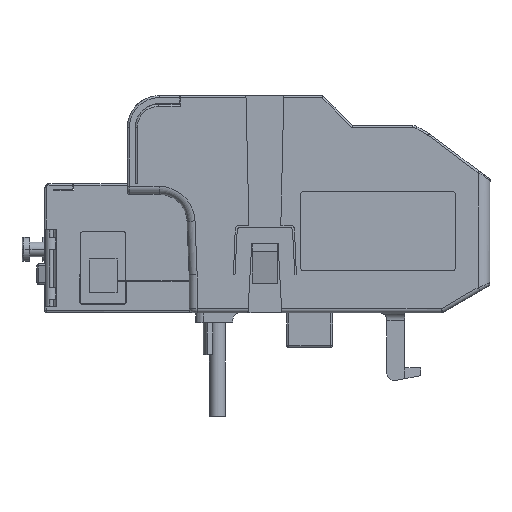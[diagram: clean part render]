
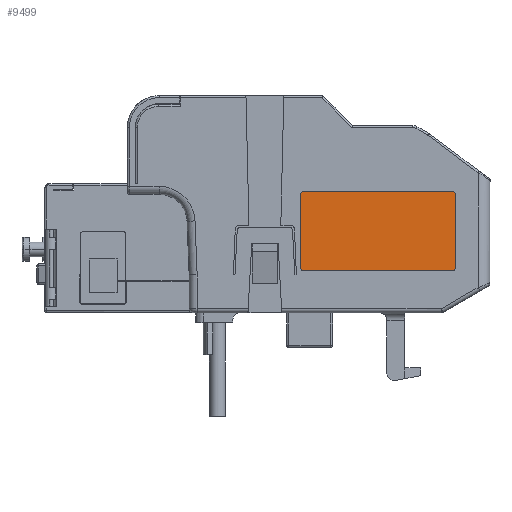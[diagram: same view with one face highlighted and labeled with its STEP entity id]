
A CAD part, left-side view. The second image highlights one B-rep face of the part: STEP entity #9499.
In plain terms, the highlighted planar face has unit normal (-1, 0, 0) as drawn and (1, 0, 0) by its records, which use the part's own axes.
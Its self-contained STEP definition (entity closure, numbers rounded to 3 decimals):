
#1559 = ORIENTED_EDGE ( 'NONE', *, *, #173726, .T. ) ;
#2385 = VERTEX_POINT ( 'NONE', #103131 ) ;
#5313 = CARTESIAN_POINT ( 'NONE',  ( 35.1, -26.65, -11. ) ) ;
#9282 = DIRECTION ( 'NONE',  ( 0., -1., 0. ) ) ;
#9499 = ADVANCED_FACE ( 'NONE', ( #155114 ), #33477, .T. ) ;
#12412 = CIRCLE ( 'NONE', #105243, 1. ) ;
#17247 = AXIS2_PLACEMENT_3D ( 'NONE', #162146, #163893, #137461 ) ;
#18532 = DIRECTION ( 'NONE',  ( 0., 1., 0. ) ) ;
#19387 = DIRECTION ( 'NONE',  ( 1., 0., 0. ) ) ;
#19922 = ORIENTED_EDGE ( 'NONE', *, *, #166448, .T. ) ;
#20235 = VERTEX_POINT ( 'NONE', #71863 ) ;
#22879 = CARTESIAN_POINT ( 'NONE',  ( 35.1, -7.15, -20. ) ) ;
#24565 = VECTOR ( 'NONE', #143321, 1000. ) ;
#26340 = DIRECTION ( 'NONE',  ( 1., 0., 0. ) ) ;
#33267 = CARTESIAN_POINT ( 'NONE',  ( 35.1, -46.15, -2. ) ) ;
#33477 = PLANE ( 'NONE',  #84716 ) ;
#33488 = DIRECTION ( 'NONE',  ( 1., 0., 0. ) ) ;
#34133 = LINE ( 'NONE', #33267, #36159 ) ;
#34921 = DIRECTION ( 'NONE',  ( 0., 1., 0. ) ) ;
#36159 = VECTOR ( 'NONE', #58865, 1000. ) ;
#37216 = CIRCLE ( 'NONE', #135734, 1. ) ;
#38477 = ORIENTED_EDGE ( 'NONE', *, *, #56082, .T. ) ;
#44982 = CARTESIAN_POINT ( 'NONE',  ( 35.1, -8.15, -20. ) ) ;
#49318 = LINE ( 'NONE', #22879, #59843 ) ;
#55554 = VECTOR ( 'NONE', #9282, 1000. ) ;
#56082 = EDGE_CURVE ( 'NONE', #163882, #2385, #12412, .T. ) ;
#56965 = CIRCLE ( 'NONE', #149922, 1. ) ;
#57927 = CARTESIAN_POINT ( 'NONE',  ( 35.1, -8.15, -2. ) ) ;
#58865 = DIRECTION ( 'NONE',  ( 0., 0., -1. ) ) ;
#59843 = VECTOR ( 'NONE', #103076, 1000. ) ;
#65570 = ORIENTED_EDGE ( 'NONE', *, *, #116382, .T. ) ;
#65620 = VERTEX_POINT ( 'NONE', #123465 ) ;
#68125 = VERTEX_POINT ( 'NONE', #153647 ) ;
#71863 = CARTESIAN_POINT ( 'NONE',  ( 35.1, -45.15, -21. ) ) ;
#72519 = CARTESIAN_POINT ( 'NONE',  ( 35.1, -7.15, -20. ) ) ;
#76416 = CIRCLE ( 'NONE', #17247, 1. ) ;
#84716 = AXIS2_PLACEMENT_3D ( 'NONE', #5313, #19387, #18532 ) ;
#87276 = DIRECTION ( 'NONE',  ( 0., 0., -1. ) ) ;
#99432 = CARTESIAN_POINT ( 'NONE',  ( 35.1, -46.15, -20. ) ) ;
#99871 = EDGE_CURVE ( 'NONE', #2385, #68125, #155621, .T. ) ;
#99921 = ORIENTED_EDGE ( 'NONE', *, *, #116221, .T. ) ;
#103076 = DIRECTION ( 'NONE',  ( 0., 0., 1. ) ) ;
#103131 = CARTESIAN_POINT ( 'NONE',  ( 35.1, -8.15, -1. ) ) ;
#105243 = AXIS2_PLACEMENT_3D ( 'NONE', #57927, #152205, #34921 ) ;
#105299 = ORIENTED_EDGE ( 'NONE', *, *, #161944, .T. ) ;
#108273 = CARTESIAN_POINT ( 'NONE',  ( 35.1, -45.15, -2. ) ) ;
#116221 = EDGE_CURVE ( 'NONE', #145296, #134853, #56965, .T. ) ;
#116382 = EDGE_CURVE ( 'NONE', #134853, #163882, #49318, .T. ) ;
#118216 = CARTESIAN_POINT ( 'NONE',  ( 35.1, -8.15, -21. ) ) ;
#121445 = ORIENTED_EDGE ( 'NONE', *, *, #141763, .T. ) ;
#123465 = CARTESIAN_POINT ( 'NONE',  ( 35.1, -46.15, -2. ) ) ;
#128378 = LINE ( 'NONE', #145035, #24565 ) ;
#129167 = CARTESIAN_POINT ( 'NONE',  ( 35.1, -8.15, -1. ) ) ;
#133480 = CARTESIAN_POINT ( 'NONE',  ( 35.1, -7.15, -2. ) ) ;
#134853 = VERTEX_POINT ( 'NONE', #72519 ) ;
#135734 = AXIS2_PLACEMENT_3D ( 'NONE', #108273, #26340, #160321 ) ;
#137461 = DIRECTION ( 'NONE',  ( 0., -1., 0. ) ) ;
#139756 = EDGE_LOOP ( 'NONE', ( #153545, #1559, #105299, #19922, #121445, #99921, #65570, #38477 ) ) ;
#141763 = EDGE_CURVE ( 'NONE', #20235, #145296, #128378, .T. ) ;
#143321 = DIRECTION ( 'NONE',  ( 0., 1., 0. ) ) ;
#145035 = CARTESIAN_POINT ( 'NONE',  ( 35.1, -45.15, -21. ) ) ;
#145296 = VERTEX_POINT ( 'NONE', #118216 ) ;
#149922 = AXIS2_PLACEMENT_3D ( 'NONE', #44982, #33488, #87276 ) ;
#152205 = DIRECTION ( 'NONE',  ( 1., 0., 0. ) ) ;
#153545 = ORIENTED_EDGE ( 'NONE', *, *, #99871, .T. ) ;
#153647 = CARTESIAN_POINT ( 'NONE',  ( 35.1, -45.15, -1. ) ) ;
#155114 = FACE_OUTER_BOUND ( 'NONE', #139756, .T. ) ;
#155621 = LINE ( 'NONE', #129167, #55554 ) ;
#156650 = VERTEX_POINT ( 'NONE', #99432 ) ;
#160321 = DIRECTION ( 'NONE',  ( 0., 0., 1. ) ) ;
#161944 = EDGE_CURVE ( 'NONE', #65620, #156650, #34133, .T. ) ;
#162146 = CARTESIAN_POINT ( 'NONE',  ( 35.1, -45.15, -20. ) ) ;
#163882 = VERTEX_POINT ( 'NONE', #133480 ) ;
#163893 = DIRECTION ( 'NONE',  ( 1., 0., 0. ) ) ;
#166448 = EDGE_CURVE ( 'NONE', #156650, #20235, #76416, .T. ) ;
#173726 = EDGE_CURVE ( 'NONE', #68125, #65620, #37216, .T. ) ;
